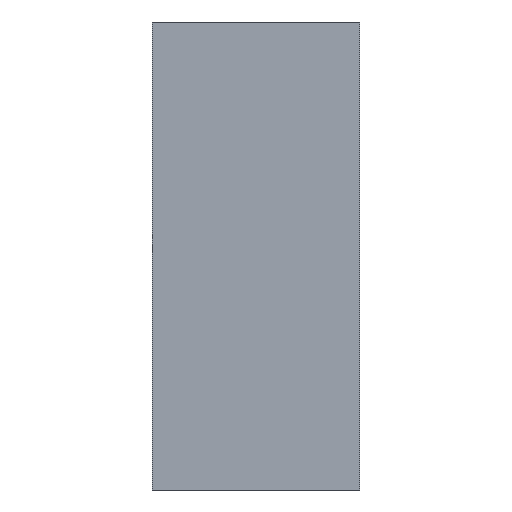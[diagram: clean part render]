
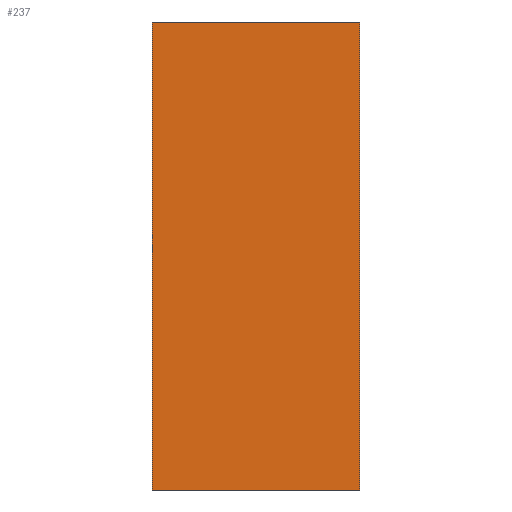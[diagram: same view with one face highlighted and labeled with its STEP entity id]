
A CAD part, front view. The second image highlights one B-rep face of the part: STEP entity #237.
In plain terms, the highlighted planar face has unit normal (0, -1, 0).
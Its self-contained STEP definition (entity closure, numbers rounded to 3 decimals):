
#21 = EDGE_CURVE('',#22,#24,#26,.T.);
#22 = VERTEX_POINT('',#23);
#23 = CARTESIAN_POINT('',(-131.,-138.,135.));
#24 = VERTEX_POINT('',#25);
#25 = CARTESIAN_POINT('',(-131.,-138.,275.));
#26 = SURFACE_CURVE('',#27,(#31,#43),.PCURVE_S1.);
#27 = LINE('',#28,#29);
#28 = CARTESIAN_POINT('',(-131.,-138.,135.));
#29 = VECTOR('',#30,1.);
#30 = DIRECTION('',(0.,0.,1.));
#31 = PCURVE('',#32,#37);
#32 = PLANE('',#33);
#33 = AXIS2_PLACEMENT_3D('',#34,#35,#36);
#34 = CARTESIAN_POINT('',(-131.,-138.,135.));
#35 = DIRECTION('',(1.,0.,0.));
#36 = DIRECTION('',(0.,0.,1.));
#37 = DEFINITIONAL_REPRESENTATION('',(#38),#42);
#38 = LINE('',#39,#40);
#39 = CARTESIAN_POINT('',(0.,0.));
#40 = VECTOR('',#41,1.);
#41 = DIRECTION('',(1.,0.));
#42 = ( GEOMETRIC_REPRESENTATION_CONTEXT(2) 
PARAMETRIC_REPRESENTATION_CONTEXT() REPRESENTATION_CONTEXT('2D SPACE',''
  ) );
#43 = PCURVE('',#44,#49);
#44 = PLANE('',#45);
#45 = AXIS2_PLACEMENT_3D('',#46,#47,#48);
#46 = CARTESIAN_POINT('',(-131.,-138.,135.));
#47 = DIRECTION('',(0.,1.,0.));
#48 = DIRECTION('',(0.,0.,1.));
#49 = DEFINITIONAL_REPRESENTATION('',(#50),#54);
#50 = LINE('',#51,#52);
#51 = CARTESIAN_POINT('',(0.,0.));
#52 = VECTOR('',#53,1.);
#53 = DIRECTION('',(1.,0.));
#54 = ( GEOMETRIC_REPRESENTATION_CONTEXT(2) 
PARAMETRIC_REPRESENTATION_CONTEXT() REPRESENTATION_CONTEXT('2D SPACE',''
  ) );
#72 = PLANE('',#73);
#73 = AXIS2_PLACEMENT_3D('',#74,#75,#76);
#74 = CARTESIAN_POINT('',(-131.,-138.,135.));
#75 = DIRECTION('',(0.,0.,1.));
#76 = DIRECTION('',(1.,0.,0.));
#126 = PLANE('',#127);
#127 = AXIS2_PLACEMENT_3D('',#128,#129,#130);
#128 = CARTESIAN_POINT('',(-131.,-138.,275.));
#129 = DIRECTION('',(0.,0.,1.));
#130 = DIRECTION('',(1.,0.,0.));
#141 = EDGE_CURVE('',#142,#144,#146,.T.);
#142 = VERTEX_POINT('',#143);
#143 = CARTESIAN_POINT('',(-69.,-138.,135.));
#144 = VERTEX_POINT('',#145);
#145 = CARTESIAN_POINT('',(-69.,-138.,275.));
#146 = SURFACE_CURVE('',#147,(#151,#163),.PCURVE_S1.);
#147 = LINE('',#148,#149);
#148 = CARTESIAN_POINT('',(-69.,-138.,135.));
#149 = VECTOR('',#150,1.);
#150 = DIRECTION('',(0.,0.,1.));
#151 = PCURVE('',#152,#157);
#152 = PLANE('',#153);
#153 = AXIS2_PLACEMENT_3D('',#154,#155,#156);
#154 = CARTESIAN_POINT('',(-69.,-138.,135.));
#155 = DIRECTION('',(1.,0.,0.));
#156 = DIRECTION('',(0.,0.,1.));
#157 = DEFINITIONAL_REPRESENTATION('',(#158),#162);
#158 = LINE('',#159,#160);
#159 = CARTESIAN_POINT('',(0.,0.));
#160 = VECTOR('',#161,1.);
#161 = DIRECTION('',(1.,0.));
#162 = ( GEOMETRIC_REPRESENTATION_CONTEXT(2) 
PARAMETRIC_REPRESENTATION_CONTEXT() REPRESENTATION_CONTEXT('2D SPACE',''
  ) );
#163 = PCURVE('',#44,#164);
#164 = DEFINITIONAL_REPRESENTATION('',(#165),#169);
#165 = LINE('',#166,#167);
#166 = CARTESIAN_POINT('',(0.,62.));
#167 = VECTOR('',#168,1.);
#168 = DIRECTION('',(1.,0.));
#169 = ( GEOMETRIC_REPRESENTATION_CONTEXT(2) 
PARAMETRIC_REPRESENTATION_CONTEXT() REPRESENTATION_CONTEXT('2D SPACE',''
  ) );
#237 = ADVANCED_FACE('',(#238),#44,.F.);
#238 = FACE_BOUND('',#239,.F.);
#239 = EDGE_LOOP('',(#240,#261,#262,#283));
#240 = ORIENTED_EDGE('',*,*,#241,.F.);
#241 = EDGE_CURVE('',#22,#142,#242,.T.);
#242 = SURFACE_CURVE('',#243,(#247,#254),.PCURVE_S1.);
#243 = LINE('',#244,#245);
#244 = CARTESIAN_POINT('',(-131.,-138.,135.));
#245 = VECTOR('',#246,1.);
#246 = DIRECTION('',(1.,0.,0.));
#247 = PCURVE('',#44,#248);
#248 = DEFINITIONAL_REPRESENTATION('',(#249),#253);
#249 = LINE('',#250,#251);
#250 = CARTESIAN_POINT('',(0.,0.));
#251 = VECTOR('',#252,1.);
#252 = DIRECTION('',(0.,1.));
#253 = ( GEOMETRIC_REPRESENTATION_CONTEXT(2) 
PARAMETRIC_REPRESENTATION_CONTEXT() REPRESENTATION_CONTEXT('2D SPACE',''
  ) );
#254 = PCURVE('',#72,#255);
#255 = DEFINITIONAL_REPRESENTATION('',(#256),#260);
#256 = LINE('',#257,#258);
#257 = CARTESIAN_POINT('',(0.,0.));
#258 = VECTOR('',#259,1.);
#259 = DIRECTION('',(1.,0.));
#260 = ( GEOMETRIC_REPRESENTATION_CONTEXT(2) 
PARAMETRIC_REPRESENTATION_CONTEXT() REPRESENTATION_CONTEXT('2D SPACE',''
  ) );
#261 = ORIENTED_EDGE('',*,*,#21,.T.);
#262 = ORIENTED_EDGE('',*,*,#263,.T.);
#263 = EDGE_CURVE('',#24,#144,#264,.T.);
#264 = SURFACE_CURVE('',#265,(#269,#276),.PCURVE_S1.);
#265 = LINE('',#266,#267);
#266 = CARTESIAN_POINT('',(-131.,-138.,275.));
#267 = VECTOR('',#268,1.);
#268 = DIRECTION('',(1.,0.,0.));
#269 = PCURVE('',#44,#270);
#270 = DEFINITIONAL_REPRESENTATION('',(#271),#275);
#271 = LINE('',#272,#273);
#272 = CARTESIAN_POINT('',(140.,0.));
#273 = VECTOR('',#274,1.);
#274 = DIRECTION('',(0.,1.));
#275 = ( GEOMETRIC_REPRESENTATION_CONTEXT(2) 
PARAMETRIC_REPRESENTATION_CONTEXT() REPRESENTATION_CONTEXT('2D SPACE',''
  ) );
#276 = PCURVE('',#126,#277);
#277 = DEFINITIONAL_REPRESENTATION('',(#278),#282);
#278 = LINE('',#279,#280);
#279 = CARTESIAN_POINT('',(0.,0.));
#280 = VECTOR('',#281,1.);
#281 = DIRECTION('',(1.,0.));
#282 = ( GEOMETRIC_REPRESENTATION_CONTEXT(2) 
PARAMETRIC_REPRESENTATION_CONTEXT() REPRESENTATION_CONTEXT('2D SPACE',''
  ) );
#283 = ORIENTED_EDGE('',*,*,#141,.F.);
